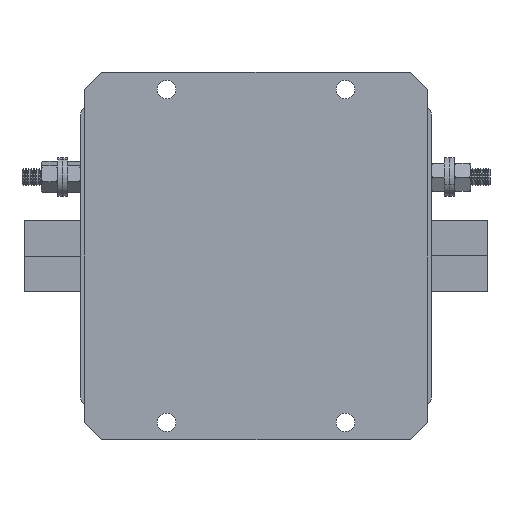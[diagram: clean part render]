
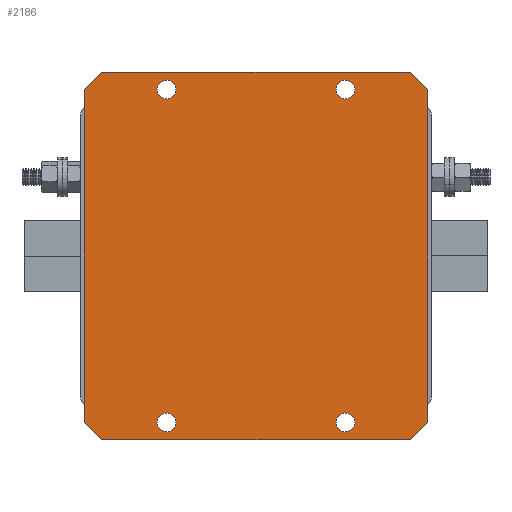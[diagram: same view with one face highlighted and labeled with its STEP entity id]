
A CAD part, front view. The second image highlights one B-rep face of the part: STEP entity #2186.
In plain terms, the highlighted planar face has unit normal (0, -1, 0).
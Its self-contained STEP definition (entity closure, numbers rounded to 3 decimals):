
#52 = AXIS2_PLACEMENT_3D ( 'NONE', #5188, #3953, #1961 ) ;
#89 = ORIENTED_EDGE ( 'NONE', *, *, #6141, .F. ) ;
#109 = VERTEX_POINT ( 'NONE', #2746 ) ;
#274 = CARTESIAN_POINT ( 'NONE',  ( -99., -1.2, -90. ) ) ;
#357 = ORIENTED_EDGE ( 'NONE', *, *, #4989, .F. ) ;
#442 = DIRECTION ( 'NONE',  ( 0., -1., 0. ) ) ;
#467 = ORIENTED_EDGE ( 'NONE', *, *, #2550, .T. ) ;
#640 = LINE ( 'NONE', #3274, #3926 ) ;
#690 = CARTESIAN_POINT ( 'NONE',  ( -24.5, -1.2, 5. ) ) ;
#692 = ORIENTED_EDGE ( 'NONE', *, *, #2714, .F. ) ;
#871 = VERTEX_POINT ( 'NONE', #7083 ) ;
#897 = DIRECTION ( 'NONE',  ( 0., 0., -1. ) ) ;
#902 = DIRECTION ( 'NONE',  ( 1., 0., 0. ) ) ;
#915 = CARTESIAN_POINT ( 'NONE',  ( -99., -1.2, 5. ) ) ;
#980 = AXIS2_PLACEMENT_3D ( 'NONE', #1701, #6869, #6945 ) ;
#1112 = EDGE_CURVE ( 'NONE', #1595, #5144, #5019, .T. ) ;
#1196 = VECTOR ( 'NONE', #8488, 1000. ) ;
#1243 = CARTESIAN_POINT ( 'NONE',  ( -24.5, -1.2, -92.65 ) ) ;
#1273 = ORIENTED_EDGE ( 'NONE', *, *, #4358, .F. ) ;
#1308 = DIRECTION ( 'NONE',  ( 0., 0., -1. ) ) ;
#1424 = DIRECTION ( 'NONE',  ( 0., 0., -1. ) ) ;
#1441 = FACE_BOUND ( 'NONE', #2437, .T. ) ;
#1526 = DIRECTION ( 'NONE',  ( 0., 0., 1. ) ) ;
#1595 = VERTEX_POINT ( 'NONE', #7393 ) ;
#1623 = LINE ( 'NONE', #7816, #1196 ) ;
#1678 = CARTESIAN_POINT ( 'NONE',  ( -75.5, -1.2, 5. ) ) ;
#1701 = CARTESIAN_POINT ( 'NONE',  ( -24.5, -1.2, 5. ) ) ;
#1822 = VERTEX_POINT ( 'NONE', #3114 ) ;
#1882 = ORIENTED_EDGE ( 'NONE', *, *, #4783, .F. ) ;
#1938 = ORIENTED_EDGE ( 'NONE', *, *, #4288, .T. ) ;
#1961 = DIRECTION ( 'NONE',  ( 0., 0., -1. ) ) ;
#1975 = CIRCLE ( 'NONE', #7993, 2.65 ) ;
#2029 = DIRECTION ( 'NONE',  ( 0., -1., 0. ) ) ;
#2186 = ADVANCED_FACE ( 'NONE', ( #6679, #4904, #6565, #8415, #1441 ), #6817, .T. ) ;
#2235 = EDGE_CURVE ( 'NONE', #109, #2497, #2341, .T. ) ;
#2290 = EDGE_CURVE ( 'NONE', #5668, #1822, #6862, .T. ) ;
#2332 = VECTOR ( 'NONE', #4267, 1000. ) ;
#2341 = CIRCLE ( 'NONE', #980, 2.65 ) ;
#2366 = CIRCLE ( 'NONE', #4432, 2.65 ) ;
#2417 = AXIS2_PLACEMENT_3D ( 'NONE', #4818, #5451, #897 ) ;
#2437 = EDGE_LOOP ( 'NONE', ( #1273, #3136 ) ) ;
#2471 = CARTESIAN_POINT ( 'NONE',  ( -24.5, -1.2, -90. ) ) ;
#2497 = VERTEX_POINT ( 'NONE', #6459 ) ;
#2525 = CARTESIAN_POINT ( 'NONE',  ( -75.5, -1.2, -92.65 ) ) ;
#2550 = EDGE_CURVE ( 'NONE', #1822, #6077, #4992, .T. ) ;
#2620 = EDGE_CURVE ( 'NONE', #5549, #1595, #6668, .T. ) ;
#2629 = EDGE_LOOP ( 'NONE', ( #692, #7814 ) ) ;
#2647 = ORIENTED_EDGE ( 'NONE', *, *, #7337, .F. ) ;
#2702 = AXIS2_PLACEMENT_3D ( 'NONE', #1678, #442, #6261 ) ;
#2714 = EDGE_CURVE ( 'NONE', #6000, #6301, #5312, .T. ) ;
#2742 = ORIENTED_EDGE ( 'NONE', *, *, #1112, .T. ) ;
#2746 = CARTESIAN_POINT ( 'NONE',  ( -24.5, -1.2, 2.35 ) ) ;
#2938 = EDGE_CURVE ( 'NONE', #5144, #5668, #1623, .T. ) ;
#3042 = DIRECTION ( 'NONE',  ( 0., 0., 1. ) ) ;
#3062 = EDGE_CURVE ( 'NONE', #6077, #5148, #8290, .T. ) ;
#3081 = EDGE_LOOP ( 'NONE', ( #89, #357 ) ) ;
#3114 = CARTESIAN_POINT ( 'NONE',  ( -6., -1.2, 10. ) ) ;
#3136 = ORIENTED_EDGE ( 'NONE', *, *, #2235, .F. ) ;
#3274 = CARTESIAN_POINT ( 'NONE',  ( -99., -1.2, 10. ) ) ;
#3397 = VECTOR ( 'NONE', #7498, 1000. ) ;
#3489 = AXIS2_PLACEMENT_3D ( 'NONE', #690, #2029, #7245 ) ;
#3548 = CARTESIAN_POINT ( 'NONE',  ( -1., -1.2, -90. ) ) ;
#3685 = DIRECTION ( 'NONE',  ( 0., 0., -1. ) ) ;
#3686 = ORIENTED_EDGE ( 'NONE', *, *, #5261, .T. ) ;
#3736 = CARTESIAN_POINT ( 'NONE',  ( -94., -1.2, -95. ) ) ;
#3743 = EDGE_LOOP ( 'NONE', ( #1938, #3686, #6475, #2742, #5362, #4365, #467, #8473 ) ) ;
#3764 = AXIS2_PLACEMENT_3D ( 'NONE', #5952, #6653, #1424 ) ;
#3787 = VECTOR ( 'NONE', #8499, 1000. ) ;
#3926 = VECTOR ( 'NONE', #1308, 1000. ) ;
#3953 = DIRECTION ( 'NONE',  ( 0., -1., 0. ) ) ;
#4062 = CIRCLE ( 'NONE', #8085, 2.65 ) ;
#4150 = CIRCLE ( 'NONE', #3764, 2.65 ) ;
#4210 = CARTESIAN_POINT ( 'NONE',  ( -75.5, -1.2, 7.65 ) ) ;
#4267 = DIRECTION ( 'NONE',  ( -0.707, 0., 0.707 ) ) ;
#4288 = EDGE_CURVE ( 'NONE', #5148, #5145, #640, .T. ) ;
#4346 = CARTESIAN_POINT ( 'NONE',  ( -52.5, -1.2, 56.5 ) ) ;
#4348 = CARTESIAN_POINT ( 'NONE',  ( 0., -1.2, -89. ) ) ;
#4358 = EDGE_CURVE ( 'NONE', #2497, #109, #5630, .T. ) ;
#4365 = ORIENTED_EDGE ( 'NONE', *, *, #2290, .T. ) ;
#4432 = AXIS2_PLACEMENT_3D ( 'NONE', #6081, #5440, #1526 ) ;
#4464 = EDGE_LOOP ( 'NONE', ( #2647, #1882 ) ) ;
#4494 = DIRECTION ( 'NONE',  ( 0., -1., 0. ) ) ;
#4649 = CARTESIAN_POINT ( 'NONE',  ( -96.5, -1.2, 7.5 ) ) ;
#4658 = VERTEX_POINT ( 'NONE', #2525 ) ;
#4783 = EDGE_CURVE ( 'NONE', #4658, #871, #5493, .T. ) ;
#4818 = CARTESIAN_POINT ( 'NONE',  ( -99., -1.2, 10. ) ) ;
#4904 = FACE_BOUND ( 'NONE', #2629, .T. ) ;
#4954 = DIRECTION ( 'NONE',  ( 0.707, 0., -0.707 ) ) ;
#4989 = EDGE_CURVE ( 'NONE', #8236, #6342, #2366, .T. ) ;
#4992 = LINE ( 'NONE', #6121, #3397 ) ;
#5019 = LINE ( 'NONE', #4348, #8012 ) ;
#5103 = DIRECTION ( 'NONE',  ( 0., -1., 0. ) ) ;
#5144 = VERTEX_POINT ( 'NONE', #3548 ) ;
#5145 = VERTEX_POINT ( 'NONE', #274 ) ;
#5148 = VERTEX_POINT ( 'NONE', #915 ) ;
#5188 = CARTESIAN_POINT ( 'NONE',  ( -75.5, -1.2, -90. ) ) ;
#5261 = EDGE_CURVE ( 'NONE', #5145, #5549, #6372, .T. ) ;
#5312 = CIRCLE ( 'NONE', #2702, 2.65 ) ;
#5362 = ORIENTED_EDGE ( 'NONE', *, *, #2938, .T. ) ;
#5440 = DIRECTION ( 'NONE',  ( 0., -1., 0. ) ) ;
#5451 = DIRECTION ( 'NONE',  ( 0., -1., 0. ) ) ;
#5493 = CIRCLE ( 'NONE', #52, 2.65 ) ;
#5512 = CARTESIAN_POINT ( 'NONE',  ( -94., -1.2, 10. ) ) ;
#5549 = VERTEX_POINT ( 'NONE', #3736 ) ;
#5630 = CIRCLE ( 'NONE', #3489, 2.65 ) ;
#5668 = VERTEX_POINT ( 'NONE', #8501 ) ;
#5952 = CARTESIAN_POINT ( 'NONE',  ( -75.5, -1.2, 5. ) ) ;
#6000 = VERTEX_POINT ( 'NONE', #4210 ) ;
#6077 = VERTEX_POINT ( 'NONE', #5512 ) ;
#6081 = CARTESIAN_POINT ( 'NONE',  ( -24.5, -1.2, -90. ) ) ;
#6121 = CARTESIAN_POINT ( 'NONE',  ( -99., -1.2, 10. ) ) ;
#6141 = EDGE_CURVE ( 'NONE', #6342, #8236, #4062, .T. ) ;
#6261 = DIRECTION ( 'NONE',  ( 0., 0., -1. ) ) ;
#6301 = VERTEX_POINT ( 'NONE', #6559 ) ;
#6342 = VERTEX_POINT ( 'NONE', #8489 ) ;
#6372 = LINE ( 'NONE', #7628, #6986 ) ;
#6404 = EDGE_CURVE ( 'NONE', #6301, #6000, #4150, .T. ) ;
#6459 = CARTESIAN_POINT ( 'NONE',  ( -24.5, -1.2, 7.65 ) ) ;
#6475 = ORIENTED_EDGE ( 'NONE', *, *, #2620, .T. ) ;
#6559 = CARTESIAN_POINT ( 'NONE',  ( -75.5, -1.2, 2.35 ) ) ;
#6565 = FACE_OUTER_BOUND ( 'NONE', #3743, .T. ) ;
#6653 = DIRECTION ( 'NONE',  ( 0., -1., 0. ) ) ;
#6668 = LINE ( 'NONE', #8137, #7061 ) ;
#6679 = FACE_BOUND ( 'NONE', #3081, .T. ) ;
#6817 = PLANE ( 'NONE',  #2417 ) ;
#6862 = LINE ( 'NONE', #4346, #2332 ) ;
#6869 = DIRECTION ( 'NONE',  ( 0., -1., 0. ) ) ;
#6945 = DIRECTION ( 'NONE',  ( 0., 0., 1. ) ) ;
#6986 = VECTOR ( 'NONE', #4954, 1000. ) ;
#7061 = VECTOR ( 'NONE', #902, 1000. ) ;
#7082 = CARTESIAN_POINT ( 'NONE',  ( -75.5, -1.2, -90. ) ) ;
#7083 = CARTESIAN_POINT ( 'NONE',  ( -75.5, -1.2, -87.35 ) ) ;
#7245 = DIRECTION ( 'NONE',  ( 0., 0., 1. ) ) ;
#7337 = EDGE_CURVE ( 'NONE', #871, #4658, #1975, .T. ) ;
#7393 = CARTESIAN_POINT ( 'NONE',  ( -6., -1.2, -95. ) ) ;
#7498 = DIRECTION ( 'NONE',  ( -1., 0., 0. ) ) ;
#7628 = CARTESIAN_POINT ( 'NONE',  ( -149., -1.2, -40. ) ) ;
#7668 = DIRECTION ( 'NONE',  ( 0.707, 0., 0.707 ) ) ;
#7814 = ORIENTED_EDGE ( 'NONE', *, *, #6404, .F. ) ;
#7816 = CARTESIAN_POINT ( 'NONE',  ( -1., -1.2, 10. ) ) ;
#7993 = AXIS2_PLACEMENT_3D ( 'NONE', #7082, #4494, #3685 ) ;
#8012 = VECTOR ( 'NONE', #7668, 1000. ) ;
#8085 = AXIS2_PLACEMENT_3D ( 'NONE', #2471, #5103, #3042 ) ;
#8137 = CARTESIAN_POINT ( 'NONE',  ( -99., -1.2, -95. ) ) ;
#8236 = VERTEX_POINT ( 'NONE', #1243 ) ;
#8290 = LINE ( 'NONE', #4649, #3787 ) ;
#8415 = FACE_BOUND ( 'NONE', #4464, .T. ) ;
#8473 = ORIENTED_EDGE ( 'NONE', *, *, #3062, .T. ) ;
#8488 = DIRECTION ( 'NONE',  ( 0., 0., 1. ) ) ;
#8489 = CARTESIAN_POINT ( 'NONE',  ( -24.5, -1.2, -87.35 ) ) ;
#8499 = DIRECTION ( 'NONE',  ( -0.707, 0., -0.707 ) ) ;
#8501 = CARTESIAN_POINT ( 'NONE',  ( -1., -1.2, 5. ) ) ;
